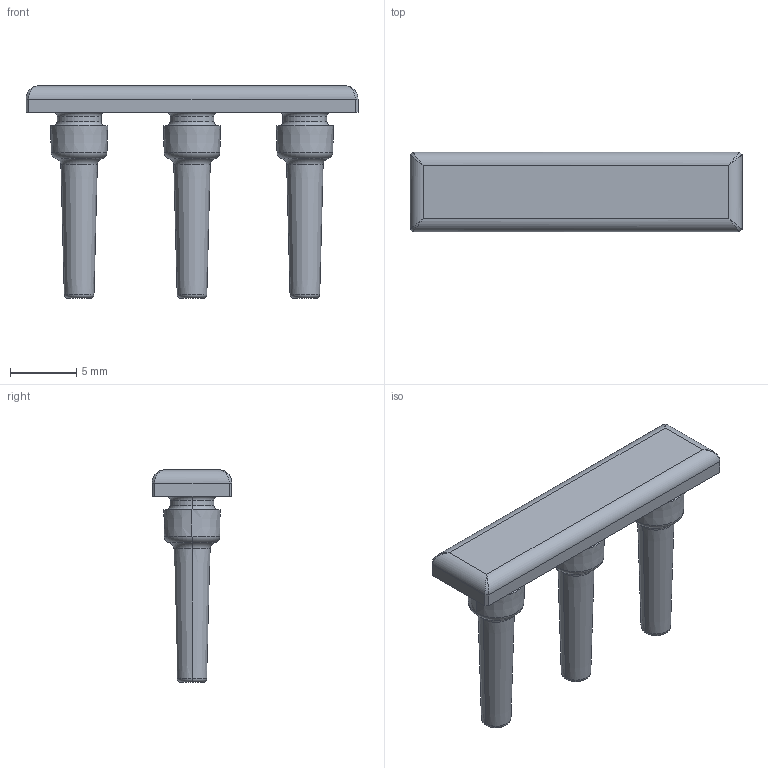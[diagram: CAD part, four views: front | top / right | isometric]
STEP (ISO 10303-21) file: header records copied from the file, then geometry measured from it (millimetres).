
FILE_DESCRIPTION (( 'STEP AP214' ), '1' );
FILE_NAME ('GR12N-12左右钳口硅胶垫.STEP', '2025-03-17T01:39:59', ( '微软用户' ), ( '微软中国' ), 'SwSTEP 2.0', 'SolidWorks 2018', '' );
FILE_SCHEMA (( 'AUTOMOTIVE_DESIGN' ));
Length unit declared in the file: millimetre
Products named in the file (1): GR12N-12酘衵ヵ諳寡蝶菜
Bounding box: 25 x 6 x 16 mm (x, y, z)
Volume: 572.8 mm3; surface area: 777.7 mm2
Topology: 1 solids, 1 shells, 72 faces, 148 edges, 80 vertices
Faces by surface type: torus 30, plane 16, cone 12, cylinder 10, bspline 4
Entity records: 2360 total; most frequent: CARTESIAN_POINT 805, DIRECTION 360, ORIENTED_EDGE 288, AXIS2_PLACEMENT_3D 159, EDGE_CURVE 144, CIRCLE 90, VERTEX_POINT 80, EDGE_LOOP 78
